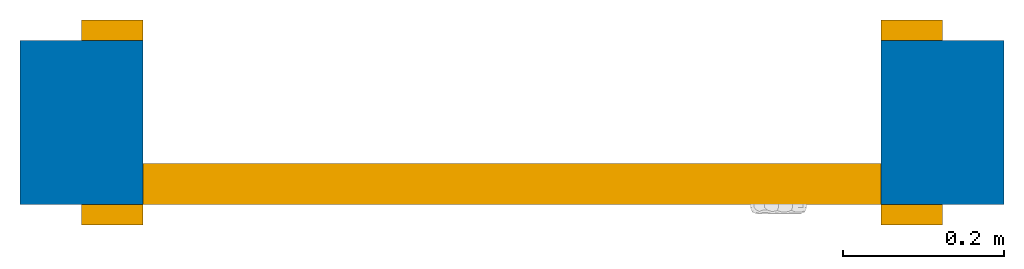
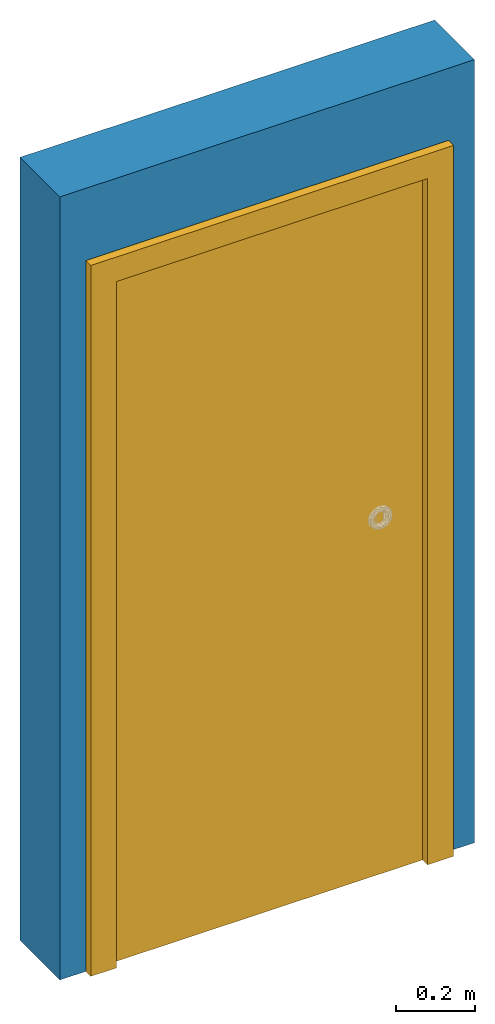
# One storey, part 1 of 2: 1 door, 1 wall, 1 opening.
"""IFC2X3 building model written with IfcOpenShell, lengths in feet."""

from ifc_helpers import new_model, entity, si_unit, converted_unit, derived_unit, direction, frame, frame_2d, origin, place, context, subcontext, project, spatial, polyline, rectangle, outline, extrude, source, transform, mapped, material, material_list, layer, layer_set, layer_usage, type_object, type_shapes, element, fill, save


model = new_model("IFC2X3")

# Units and contexts
model_context = context("Model", 3, precision=0.0001, world=origin(), true_north=direction((6.12303176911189e-17, 1.0)))
body_context = subcontext(model_context, "Body", "Model", "MODEL_VIEW")
ifc_project = project(units=[converted_unit("LENGTHUNIT", "FOOT", entity("IfcRatioMeasure", 0.3048), si_unit("LENGTHUNIT", "METRE"), dimensions=[1, 0, 0, 0, 0, 0, 0]), converted_unit("AREAUNIT", "SQUARE FOOT", entity("IfcRatioMeasure", 0.09290304), si_unit("AREAUNIT", "SQUARE_METRE"), dimensions=[2, 0, 0, 0, 0, 0, 0]), converted_unit("VOLUMEUNIT", "CUBIC FOOT", entity("IfcRatioMeasure", 0.028316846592), si_unit("VOLUMEUNIT", "CUBIC_METRE"), dimensions=[3, 0, 0, 0, 0, 0, 0]), converted_unit("PLANEANGLEUNIT", "DEGREE", entity("IfcRatioMeasure", 0.0174532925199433), si_unit("PLANEANGLEUNIT", "RADIAN"), dimensions=[0, 0, 0, 0, 0, 0, 0]), si_unit("MASSUNIT", "GRAM", prefix="KILO"), derived_unit("MASSDENSITYUNIT", [(si_unit("MASSUNIT", "GRAM", prefix="KILO"), 1), (si_unit("LENGTHUNIT", "METRE"), -3)]), si_unit("TIMEUNIT", "SECOND"), si_unit("FREQUENCYUNIT", "HERTZ"), si_unit("THERMODYNAMICTEMPERATUREUNIT", "DEGREE_CELSIUS"), derived_unit("THERMALTRANSMITTANCEUNIT", [(si_unit("MASSUNIT", "GRAM", prefix="KILO"), 1), (si_unit("THERMODYNAMICTEMPERATUREUNIT", "KELVIN"), -1), (si_unit("TIMEUNIT", "SECOND"), -3)]), derived_unit("VOLUMETRICFLOWRATEUNIT", [(si_unit("LENGTHUNIT", "METRE"), 3), (si_unit("TIMEUNIT", "SECOND"), -1)]), si_unit("ELECTRICCURRENTUNIT", "AMPERE"), si_unit("ELECTRICVOLTAGEUNIT", "VOLT"), si_unit("POWERUNIT", "WATT"), si_unit("FORCEUNIT", "NEWTON"), si_unit("ILLUMINANCEUNIT", "LUX"), si_unit("LUMINOUSFLUXUNIT", "LUMEN"), si_unit("LUMINOUSINTENSITYUNIT", "CANDELA"), derived_unit("USERDEFINED", [(si_unit("MASSUNIT", "GRAM", prefix="KILO"), -1), (si_unit("LENGTHUNIT", "METRE"), -2), (si_unit("TIMEUNIT", "SECOND"), 3), (si_unit("LUMINOUSFLUXUNIT", "LUMEN"), 1)]), derived_unit("LINEARVELOCITYUNIT", [(si_unit("LENGTHUNIT", "METRE"), 1), (si_unit("TIMEUNIT", "SECOND"), -1)]), si_unit("PRESSUREUNIT", "PASCAL"), derived_unit("USERDEFINED", [(si_unit("LENGTHUNIT", "METRE"), -2), (si_unit("MASSUNIT", "GRAM", prefix="KILO"), 1), (si_unit("TIMEUNIT", "SECOND"), -2)])], contexts=[model_context])

# Site, building, storey
site_placement = place(None, origin())
site = spatial("IfcSite", under=ifc_project, at=site_placement, Name="Default", CompositionType="ELEMENT")
building_placement = place(site_placement, origin())
building = spatial("IfcBuilding", under=site, at=building_placement, CompositionType="ELEMENT")
storey_placement = place(building_placement, origin())
storey = spatial("IfcBuildingStorey", under=building, at=storey_placement, Name="Level 1", CompositionType="ELEMENT", Elevation=0.0)

# Wall, opening, door
ifc_material_1 = material(Name="Default Wall")
ifc_layer = layer(ifc_material_1, 0.666666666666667)
ifc_layer_set = layer_set([ifc_layer], Name="Basic Wall:Generic - 8\"")
ifc_layer_usage = layer_usage(ifc_layer_set, "AXIS2", "NEGATIVE", 0.333333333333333)
wall_type = type_object("IfcWallType", Name="Basic Wall:Generic - 8\"", PredefinedType="STANDARD", material=ifc_layer_set)
wall_placement = place(storey_placement, frame((-6.68850720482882, 8.78909932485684, 0.0)))
wall = element("IfcWallStandardCase", 1, at=wall_placement, inside=storey, type_object=wall_type, material=ifc_layer_usage, Name="Basic Wall:Generic - 8\"", ObjectType="Basic Wall:Generic - 8\"", context=body_context, shape_type="SweptSolid", body=[
    extrude(rectangle(XDim=4.0, YDim=0.666666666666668, at=frame_2d((2.0, -6.10622663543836e-16), x_axis=(-1.0, 0.0))), origin(), (0.0, 0.0, 1.0), 7.98638455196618),
])
opening_placement = place(wall_placement, frame((3.5, 0.333333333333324, 0.0)))
opening = element("IfcOpeningElement", 2, at=opening_placement, cuts=wall, Name="Single-Flush:36\" x 84\":1", ObjectType="Opening", context=body_context, shape_type="SweptSolid", body=[
    extrude(rectangle(XDim=3.0, YDim=7.0, at=frame_2d((3.5, 1.5), x_axis=(0.0, 1.0))), frame((0.0, 0.0, 0.0), z_axis=(0.0, -1.0, 0.0), x_axis=(0.0, 0.0, 1.0)), (0.0, 0.0, 1.0), 0.666666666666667),
])
ifc_material_2 = material(Name="Door - Frame")
ifc_material_3 = material(Name="Door - Panel")
ifc_material_list_1 = material_list([ifc_material_2, ifc_material_3])
ifc_material_list_2 = material_list([ifc_material_2, ifc_material_3])
door_style = type_object("IfcDoorStyle", Name="36\" x 84\"", ConstructionType="NOTDEFINED", OperationType="SINGLE_SWING_RIGHT", ParameterTakesPrecedence=False, Sizeable=False, material=ifc_material_list_2)
shared_shape = source(origin(), body_context, "Body", "SweptSolid", [
    extrude(outline(polyline([(-1.75, -3.6875), (1.75, -3.6875), (1.75, 3.5625), (1.5, 3.5625), (1.5, -3.43750000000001), (-1.5, -3.43750000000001), (-1.5, 3.5625), (-1.75, 3.5625), (-1.75, -3.6875)])), frame((1.5, 0.666666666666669, 3.5625), z_axis=(0.0, 1.0, 0.0), x_axis=(1.0, 0.0, 0.0)), (0.0, 0.0, 1.0), 0.0833333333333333),
    extrude(outline(polyline([(-3.6875, -1.74999999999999), (3.5625, -1.74999999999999), (3.5625, -1.50000000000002), (-3.4375, -1.50000000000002), (-3.4375, 1.50000000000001), (3.5625, 1.50000000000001), (3.5625, 1.75000000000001), (-3.6875, 1.75000000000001), (-3.6875, -1.74999999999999)])), frame((1.50000000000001, -0.0833333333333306, 3.5625), z_axis=(0.0, 1.0, 0.0), x_axis=(0.0, 0.0, -1.0)), (0.0, 0.0, 1.0), 0.0833333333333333),
    extrude(rectangle(XDim=0.166666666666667, YDim=3.0, at=frame_2d((-1.38777878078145e-17, 0.0), x_axis=(1.0, 0.0))), frame((1.5, 0.583333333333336, 0.0), z_axis=(0.0, 0.0, 1.0), x_axis=(0.0, 1.0, 0.0)), (0.0, 0.0, 1.0), 7.0),
])
type_shapes(door_style, [shared_shape])
door_placement = place(opening_placement, frame((0.0, 0.0, 0.0), z_axis=(0.0, 0.0, 1.0), x_axis=(-1.0, 0.0, 0.0)))
door = element("IfcDoor", 3, at=door_placement, inside=storey, type_object=door_style, material=ifc_material_list_1, Name="Single-Flush:36\" x 84\"", ObjectType="Single-Flush:36\" x 84\"", OverallHeight=7.0, OverallWidth=3.0, context=body_context, shape_type="MappedRepresentation", body=[
    mapped(shared_shape, transform((0.0, 0.0, 0.0), scale=1.0)),
])
fill(opening, door)

save(model, "model.ifc")
